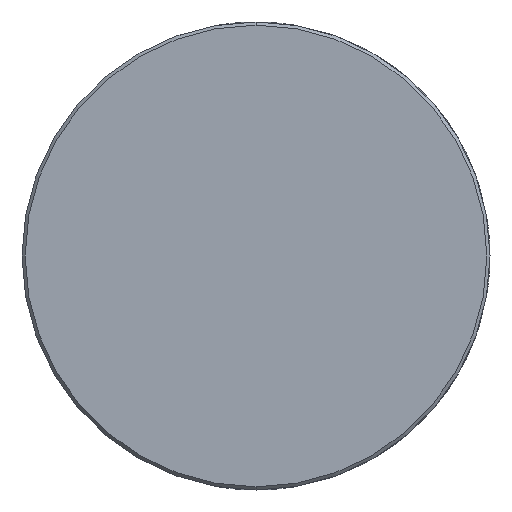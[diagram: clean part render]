
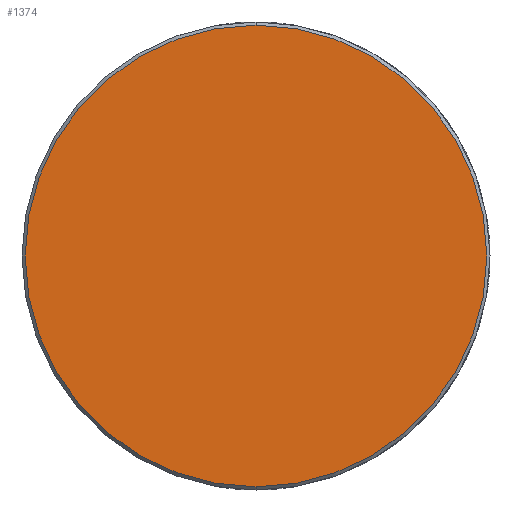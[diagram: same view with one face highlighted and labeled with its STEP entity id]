
A CAD part, front view. The second image highlights one B-rep face of the part: STEP entity #1374.
In plain terms, the highlighted planar face has unit normal (0, -1, 0).
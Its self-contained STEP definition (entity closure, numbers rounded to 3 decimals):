
#226=CARTESIAN_POINT('',(0.0,-150.64,36.0));
#227=VERTEX_POINT('',#226);
#236=CARTESIAN_POINT('',(0.0,-150.64,-36.0));
#237=VERTEX_POINT('',#236);
#238=CARTESIAN_POINT('',(0.0,-150.64,0.0));
#239=DIRECTION('',(0.0,-1.0,0.0));
#240=DIRECTION('',(0.0,0.0,1.0));
#241=AXIS2_PLACEMENT_3D('',#238,#239,#240);
#242=CIRCLE('',#241,36.0);
#243=EDGE_CURVE('no 962',#237,#227,#242,.T.);
#1359=CARTESIAN_POINT('',(0.0,-150.64,0.0));
#1360=DIRECTION('',(0.0,-1.0,0.0));
#1361=DIRECTION('',(0.0,0.0,1.0));
#1362=AXIS2_PLACEMENT_3D('',#1359,#1360,#1361);
#1363=CIRCLE('',#1362,36.0);
#1364=EDGE_CURVE('no 1632',#227,#237,#1363,.T.);
#1365=ORIENTED_EDGE('',*,*,#1364,.T.);
#1366=ORIENTED_EDGE('',*,*,#243,.T.);
#1367=EDGE_LOOP('',(#1365,#1366));
#1368=FACE_OUTER_BOUND('',#1367,.T.);
#1369=CARTESIAN_POINT('',(36.5,-150.64,0.0));
#1370=DIRECTION('',(0.0,1.0,0.0));
#1371=DIRECTION('',(0.0,0.0,-1.0));
#1372=AXIS2_PLACEMENT_3D('',#1369,#1370,#1371);
#1373=PLANE('',#1372);
#1374=ADVANCED_FACE('no 1627',(#1368),#1373,.F.);
